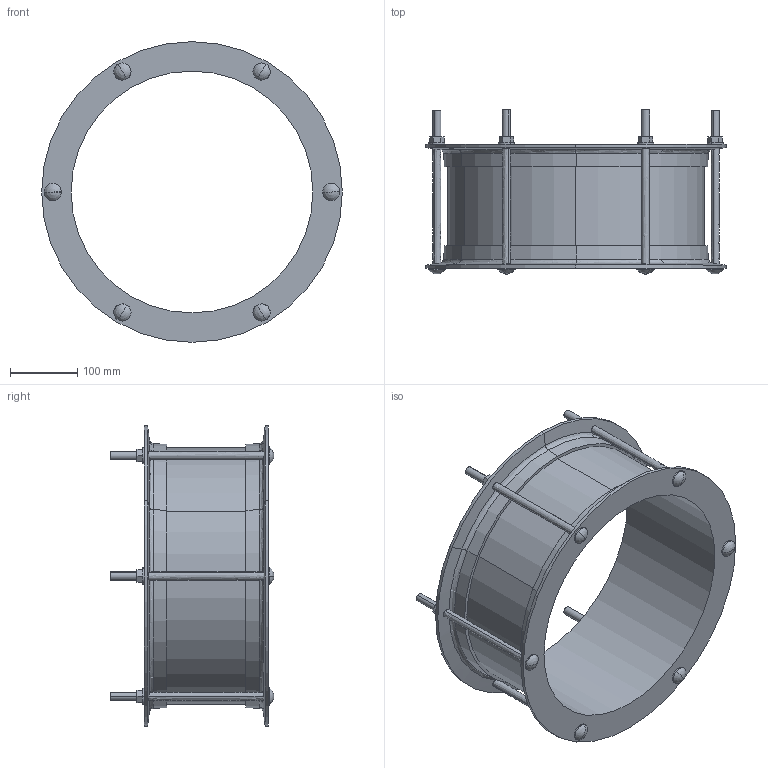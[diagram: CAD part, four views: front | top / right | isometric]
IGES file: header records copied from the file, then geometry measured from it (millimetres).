
Start section:  PTC IGES file: 355.6.igs
Global section: file name: 355.6.igs; native system: Creo Parametric by PTC Inc.; preprocessor: 2016130; author: mfairey; organization: Unknown; date: 20181205.153130; units: millimetre
Bounding box: 446.2 x 243.33 x 446.2 mm (x, y, z)
Surface area: 663625.7 mm2 (no closed solid volume)
Topology: 0 solids, 0 shells, 138 faces, 708 edges, 696 vertices
Faces by surface type: revolution 80, bspline 58
